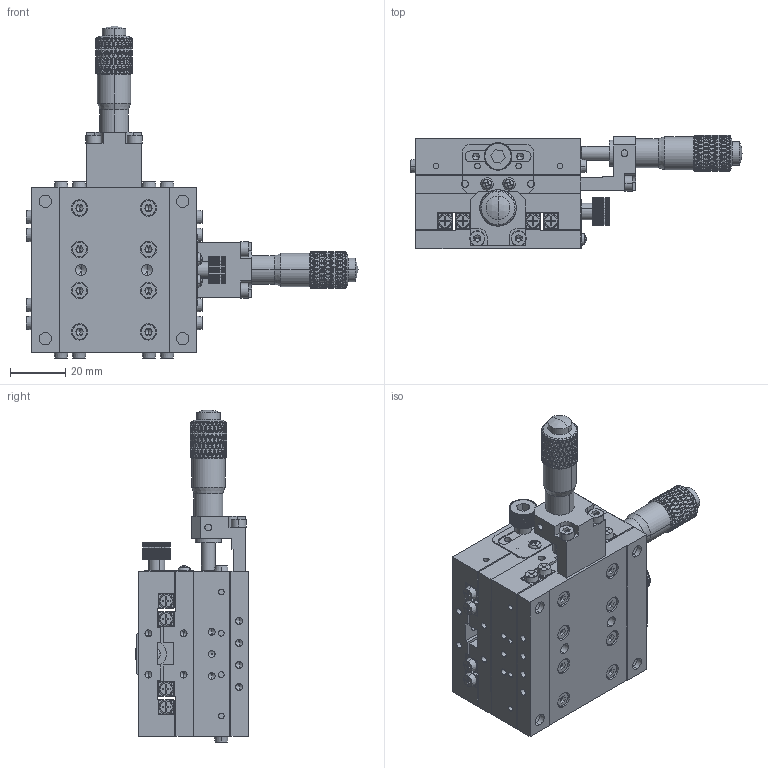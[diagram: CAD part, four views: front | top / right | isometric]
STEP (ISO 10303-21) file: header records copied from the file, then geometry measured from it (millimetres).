
FILE_DESCRIPTION (( 'STEP AP203' ), '1' );
FILE_NAME ('JCXY-60C.STEP', '2013-12-24T02:40:08', ( 'MMO' ), ( '' ), 'SwSTEP 2.0', 'SolidWorks 2013', '' );
FILE_SCHEMA (( 'CONFIG_CONTROL_DESIGN' ));
Length unit declared in the file: millimetre
Products named in the file (13): socket head cap screw_ks_KS 1003 - M3 x 5 x 5-N; JCX-60-20T-001; JCX-60C(20T); JCX-60-20T-002; JCX-60CL(20T); JV2-60-11; socket head cap screw_ks_KS 1003 - M4 x 6 x 6-N; JCX-60-18T-006; JCXY-60C; JCX-60-20T-005; JCX-60-18T-007; JALB-72-R; round cross head screw_ks_KS 1023 RC - M2.5 x 5-N
Assembly tree (66 placements, depth 3):
  JCXY-60C
    JCX-60C(20T)
      JCX-60-20T-001
      JCX-60-20T-002
      JV2-60-11  x4
      JCX-60-18T-006
      JCX-60-20T-005
      JCX-60-18T-007
      JALB-72-R
      round cross head screw_ks_KS 1023 RC - M2.5 x 5-N  x2
      socket head cap screw_ks_KS 1003 - M3 x 5 x 5-N  x18
    JCX-60CL(20T)
      JCX-60-20T-001
      JCX-60-20T-002
      JV2-60-11  x4
      JCX-60-18T-007
      JALB-72-R
      socket head cap screw_ks_KS 1003 - M3 x 5 x 5-N  x18
      JCX-60-20T-005
      round cross head screw_ks_KS 1023 RC - M2.5 x 5-N  x2
      JCX-60-18T-006
    socket head cap screw_ks_KS 1003 - M4 x 6 x 6-N  x4
Bounding box: 120.7 x 41.3 x 120.7 mm (x, y, z)
Volume: 141372.1 mm3; surface area: 83959.5 mm2
Topology: 64 solids, 64 shells, 5410 faces, 12454 edges, 7184 vertices
Faces by surface type: bspline 1664, cylinder 1634, plane 1464, cone 372, torus 256, sphere 20
Entity records: 67422 total; most frequent: CARTESIAN_POINT 33342, ORIENTED_EDGE 8010, DIRECTION 4875, EDGE_CURVE 4005, VERTEX_POINT 2325, AXIS2_PLACEMENT_3D 1968, EDGE_LOOP 1936, FACE_OUTER_BOUND 1767
